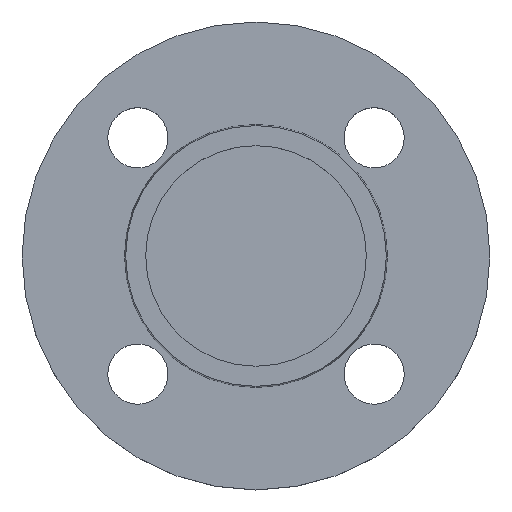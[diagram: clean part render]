
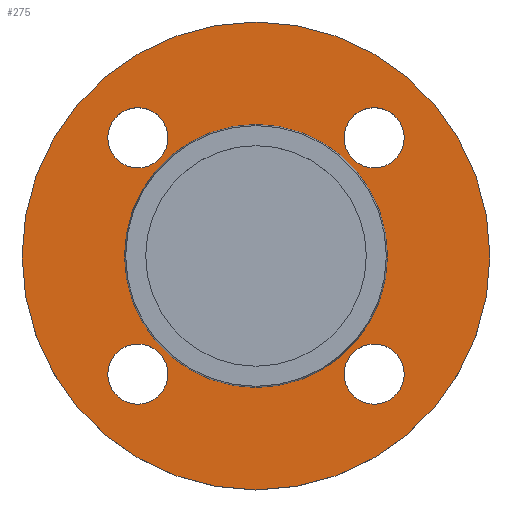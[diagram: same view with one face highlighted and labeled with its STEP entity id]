
A CAD part, top view. The second image highlights one B-rep face of the part: STEP entity #275.
In plain terms, the highlighted planar face has unit normal (0, 0, 1).
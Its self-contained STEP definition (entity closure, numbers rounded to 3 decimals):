
#1 = EDGE_CURVE ( 'NONE', #399, #232, #152, .T. ) ;
#23 = FACE_BOUND ( 'NONE', #545, .T. ) ;
#28 = ORIENTED_EDGE ( 'NONE', *, *, #1, .T. ) ;
#29 = CIRCLE ( 'NONE', #30, 9. ) ;
#30 = AXIS2_PLACEMENT_3D ( 'NONE', #489, #79, #272 ) ;
#34 = CARTESIAN_POINT ( 'NONE',  ( -44.355, 35.355, -2. ) ) ;
#35 = AXIS2_PLACEMENT_3D ( 'NONE', #360, #123, #313 ) ;
#36 = EDGE_CURVE ( 'NONE', #280, #222, #29, .T. ) ;
#48 = EDGE_LOOP ( 'NONE', ( #281, #349 ) ) ;
#56 = CARTESIAN_POINT ( 'NONE',  ( -35.355, -35.355, -2. ) ) ;
#59 = DIRECTION ( 'NONE',  ( 0., 0., -1. ) ) ;
#71 = ORIENTED_EDGE ( 'NONE', *, *, #138, .T. ) ;
#79 = DIRECTION ( 'NONE',  ( 0., 0., -1. ) ) ;
#85 = AXIS2_PLACEMENT_3D ( 'NONE', #204, #389, #551 ) ;
#90 = CARTESIAN_POINT ( 'NONE',  ( 70., 0., -2. ) ) ;
#98 = EDGE_CURVE ( 'NONE', #426, #185, #109, .T. ) ;
#101 = DIRECTION ( 'NONE',  ( 0., 0., -1. ) ) ;
#104 = CARTESIAN_POINT ( 'NONE',  ( -39.353, 0., -2. ) ) ;
#106 = DIRECTION ( 'NONE',  ( 1., 0., 0. ) ) ;
#109 = CIRCLE ( 'NONE', #124, 39.353 ) ;
#113 = DIRECTION ( 'NONE',  ( -1., 0., 0. ) ) ;
#114 = ORIENTED_EDGE ( 'NONE', *, *, #460, .T. ) ;
#116 = AXIS2_PLACEMENT_3D ( 'NONE', #504, #101, #290 ) ;
#122 = EDGE_CURVE ( 'NONE', #278, #371, #150, .T. ) ;
#123 = DIRECTION ( 'NONE',  ( 0., 0., -1. ) ) ;
#124 = AXIS2_PLACEMENT_3D ( 'NONE', #388, #549, #158 ) ;
#133 = CARTESIAN_POINT ( 'NONE',  ( 39.353, 0., -2. ) ) ;
#136 = CIRCLE ( 'NONE', #510, 9. ) ;
#138 = EDGE_CURVE ( 'NONE', #371, #278, #136, .T. ) ;
#141 = AXIS2_PLACEMENT_3D ( 'NONE', #345, #512, #106 ) ;
#150 = CIRCLE ( 'NONE', #141, 9. ) ;
#151 = AXIS2_PLACEMENT_3D ( 'NONE', #176, #363, #527 ) ;
#152 = CIRCLE ( 'NONE', #151, 9. ) ;
#158 = DIRECTION ( 'NONE',  ( -1., 0., 0. ) ) ;
#174 = CARTESIAN_POINT ( 'NONE',  ( -26.355, -35.355, -2. ) ) ;
#176 = CARTESIAN_POINT ( 'NONE',  ( 35.355, -35.355, -2. ) ) ;
#181 = FACE_BOUND ( 'NONE', #293, .T. ) ;
#182 = AXIS2_PLACEMENT_3D ( 'NONE', #416, #582, #190 ) ;
#185 = VERTEX_POINT ( 'NONE', #254 ) ;
#190 = DIRECTION ( 'NONE',  ( -1., 0., 0. ) ) ;
#201 = CARTESIAN_POINT ( 'NONE',  ( 26.355, -35.355, -2. ) ) ;
#204 = CARTESIAN_POINT ( 'NONE',  ( 35.355, -35.355, -2. ) ) ;
#208 = DIRECTION ( 'NONE',  ( 1., 0., 0. ) ) ;
#220 = CIRCLE ( 'NONE', #534, 9. ) ;
#222 = VERTEX_POINT ( 'NONE', #174 ) ;
#226 = FACE_BOUND ( 'NONE', #48, .T. ) ;
#232 = VERTEX_POINT ( 'NONE', #484 ) ;
#233 = CARTESIAN_POINT ( 'NONE',  ( -44.355, -35.355, -2. ) ) ;
#242 = VERTEX_POINT ( 'NONE', #569 ) ;
#247 = CARTESIAN_POINT ( 'NONE',  ( 44.355, 35.355, -2. ) ) ;
#251 = DIRECTION ( 'NONE',  ( 0., 0., -1. ) ) ;
#254 = CARTESIAN_POINT ( 'NONE',  ( 39.353, 0., -2. ) ) ;
#257 = DIRECTION ( 'NONE',  ( 1., 0., 0. ) ) ;
#265 = EDGE_LOOP ( 'NONE', ( #71, #581 ) ) ;
#272 = DIRECTION ( 'NONE',  ( 1., 0., 0. ) ) ;
#275 = ADVANCED_FACE ( 'NONE', ( #23, #226, #409, #572, #181, #367 ), #531, .T. ) ;
#278 = VERTEX_POINT ( 'NONE', #34 ) ;
#280 = VERTEX_POINT ( 'NONE', #233 ) ;
#281 = ORIENTED_EDGE ( 'NONE', *, *, #485, .T. ) ;
#282 = AXIS2_PLACEMENT_3D ( 'NONE', #133, #323, #490 ) ;
#290 = DIRECTION ( 'NONE',  ( 1., 0., 0. ) ) ;
#293 = EDGE_LOOP ( 'NONE', ( #536, #506 ) ) ;
#298 = EDGE_CURVE ( 'NONE', #185, #426, #368, .T. ) ;
#313 = DIRECTION ( 'NONE',  ( -1., 0., 0. ) ) ;
#314 = VERTEX_POINT ( 'NONE', #90 ) ;
#320 = CIRCLE ( 'NONE', #35, 70. ) ;
#323 = DIRECTION ( 'NONE',  ( 0., 0., 1. ) ) ;
#326 = AXIS2_PLACEMENT_3D ( 'NONE', #56, #251, #432 ) ;
#327 = ORIENTED_EDGE ( 'NONE', *, *, #580, .F. ) ;
#344 = ORIENTED_EDGE ( 'NONE', *, *, #518, .T. ) ;
#345 = CARTESIAN_POINT ( 'NONE',  ( -35.355, 35.355, -2. ) ) ;
#349 = ORIENTED_EDGE ( 'NONE', *, *, #36, .T. ) ;
#352 = CARTESIAN_POINT ( 'NONE',  ( 0., 0., -2. ) ) ;
#358 = CIRCLE ( 'NONE', #85, 9. ) ;
#360 = CARTESIAN_POINT ( 'NONE',  ( 0., 0., -2. ) ) ;
#363 = DIRECTION ( 'NONE',  ( 0., 0., -1. ) ) ;
#367 = FACE_OUTER_BOUND ( 'NONE', #471, .T. ) ;
#368 = CIRCLE ( 'NONE', #182, 39.353 ) ;
#371 = VERTEX_POINT ( 'NONE', #543 ) ;
#381 = CIRCLE ( 'NONE', #116, 9. ) ;
#388 = CARTESIAN_POINT ( 'NONE',  ( 0., 0., -2. ) ) ;
#389 = DIRECTION ( 'NONE',  ( 0., 0., -1. ) ) ;
#390 = EDGE_CURVE ( 'NONE', #242, #440, #381, .T. ) ;
#398 = CARTESIAN_POINT ( 'NONE',  ( -70., 0., -2. ) ) ;
#399 = VERTEX_POINT ( 'NONE', #201 ) ;
#402 = ORIENTED_EDGE ( 'NONE', *, *, #390, .T. ) ;
#403 = CIRCLE ( 'NONE', #463, 70. ) ;
#409 = FACE_BOUND ( 'NONE', #265, .T. ) ;
#416 = CARTESIAN_POINT ( 'NONE',  ( 0., 0., -2. ) ) ;
#426 = VERTEX_POINT ( 'NONE', #104 ) ;
#431 = CARTESIAN_POINT ( 'NONE',  ( -35.355, 35.355, -2. ) ) ;
#432 = DIRECTION ( 'NONE',  ( 1., 0., 0. ) ) ;
#440 = VERTEX_POINT ( 'NONE', #247 ) ;
#460 = EDGE_CURVE ( 'NONE', #232, #399, #358, .T. ) ;
#463 = AXIS2_PLACEMENT_3D ( 'NONE', #352, #516, #113 ) ;
#471 = EDGE_LOOP ( 'NONE', ( #481, #327 ) ) ;
#475 = CARTESIAN_POINT ( 'NONE',  ( 35.355, 35.355, -2. ) ) ;
#481 = ORIENTED_EDGE ( 'NONE', *, *, #493, .F. ) ;
#484 = CARTESIAN_POINT ( 'NONE',  ( 44.355, -35.355, -2. ) ) ;
#485 = EDGE_CURVE ( 'NONE', #222, #280, #564, .T. ) ;
#489 = CARTESIAN_POINT ( 'NONE',  ( -35.355, -35.355, -2. ) ) ;
#490 = DIRECTION ( 'NONE',  ( 1., 0., 0. ) ) ;
#493 = EDGE_CURVE ( 'NONE', #314, #537, #403, .T. ) ;
#504 = CARTESIAN_POINT ( 'NONE',  ( 35.355, 35.355, -2. ) ) ;
#506 = ORIENTED_EDGE ( 'NONE', *, *, #298, .T. ) ;
#510 = AXIS2_PLACEMENT_3D ( 'NONE', #431, #596, #208 ) ;
#512 = DIRECTION ( 'NONE',  ( 0., 0., -1. ) ) ;
#516 = DIRECTION ( 'NONE',  ( 0., 0., -1. ) ) ;
#518 = EDGE_CURVE ( 'NONE', #440, #242, #220, .T. ) ;
#527 = DIRECTION ( 'NONE',  ( 1., 0., 0. ) ) ;
#531 = PLANE ( 'NONE',  #282 ) ;
#534 = AXIS2_PLACEMENT_3D ( 'NONE', #475, #59, #257 ) ;
#536 = ORIENTED_EDGE ( 'NONE', *, *, #98, .T. ) ;
#537 = VERTEX_POINT ( 'NONE', #398 ) ;
#543 = CARTESIAN_POINT ( 'NONE',  ( -26.355, 35.355, -2. ) ) ;
#545 = EDGE_LOOP ( 'NONE', ( #114, #28 ) ) ;
#548 = EDGE_LOOP ( 'NONE', ( #344, #402 ) ) ;
#549 = DIRECTION ( 'NONE',  ( 0., 0., -1. ) ) ;
#551 = DIRECTION ( 'NONE',  ( 1., 0., 0. ) ) ;
#564 = CIRCLE ( 'NONE', #326, 9. ) ;
#569 = CARTESIAN_POINT ( 'NONE',  ( 26.355, 35.355, -2. ) ) ;
#572 = FACE_BOUND ( 'NONE', #548, .T. ) ;
#580 = EDGE_CURVE ( 'NONE', #537, #314, #320, .T. ) ;
#581 = ORIENTED_EDGE ( 'NONE', *, *, #122, .T. ) ;
#582 = DIRECTION ( 'NONE',  ( 0., 0., -1. ) ) ;
#596 = DIRECTION ( 'NONE',  ( 0., 0., -1. ) ) ;
